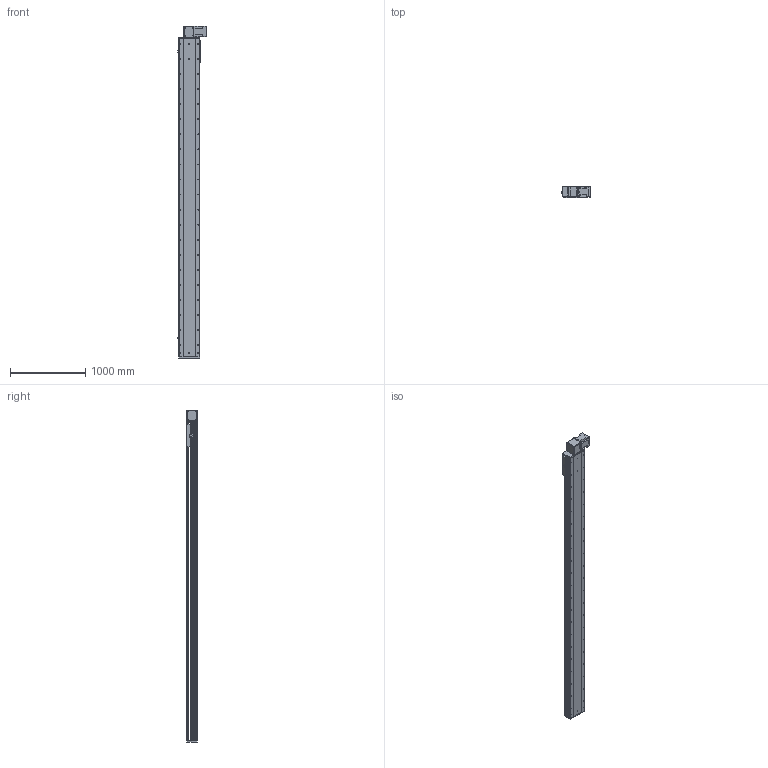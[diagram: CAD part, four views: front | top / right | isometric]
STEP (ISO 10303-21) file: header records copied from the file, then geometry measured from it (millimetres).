
FILE_DESCRIPTION (( 'STEP AP214' ), '1' );
FILE_NAME ('RTB28S-XX-3800-BL-M100-XX-C4.STEP', '2025-12-22T02:41:21', ( '' ), ( '' ), 'SwSTEP 2.0', 'SolidWorks 2018', '' );
FILE_SCHEMA (( 'AUTOMOTIVE_DESIGN' ));
Length unit declared in the file: millimetre
Products named in the file (4): RTB28S-GY-008^RTB28S-XX-XX-BL-M100-XX-C4; RTB28S-GY-004^RTB28S-XX-XX-BL-M100-XX-C4; RTB28S-GY-011^RTB28S-XX-XX-BL-M100-XX-C4; RTB28S-XX-3800-BL-M100-XX-C4
Assembly tree (3 placements, depth 2):
  RTB28S-XX-3800-BL-M100-XX-C4
    RTB28S-GY-011^RTB28S-XX-XX-BL-M100-XX-C4
    RTB28S-GY-004^RTB28S-XX-XX-BL-M100-XX-C4
    RTB28S-GY-008^RTB28S-XX-XX-BL-M100-XX-C4
Bounding box: 380.7 x 145 x 4407 mm (x, y, z)
Volume: 73706657.2 mm3; surface area: 6840980.3 mm2
Topology: 3 solids, 4 shells, 928 faces, 2508 edges, 1608 vertices
Faces by surface type: cylinder 471, plane 373, cone 80, torus 4
Entity records: 36317 total; most frequent: CARTESIAN_POINT 7102, DIRECTION 5346, ORIENTED_EDGE 4952, EDGE_CURVE 2476, AXIS2_PLACEMENT_3D 1988, VERTEX_POINT 1608, LINE 1370, VECTOR 1370
